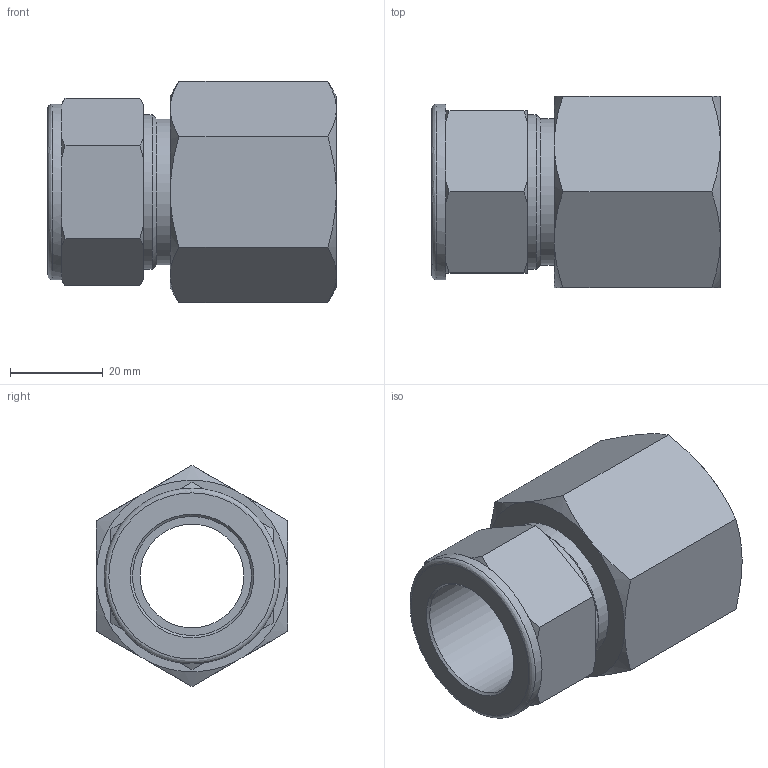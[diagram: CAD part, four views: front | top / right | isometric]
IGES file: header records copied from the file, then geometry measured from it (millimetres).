
Global section: file name: SFC-16-16N; native system: Autodesk Inventor 2016; preprocessor: unknown; author: 배성훈,,11,0; organization: 20151010.070804; date: 20151019.102926; units: millimetre
Bounding box: 62.16 x 41.27 x 47.65 mm (x, y, z)
Volume: 42991 mm3; surface area: 15870.6 mm2
Topology: 1 solids, 1 shells, 58 faces, 155 edges, 102 vertices
Faces by surface type: bspline 58
